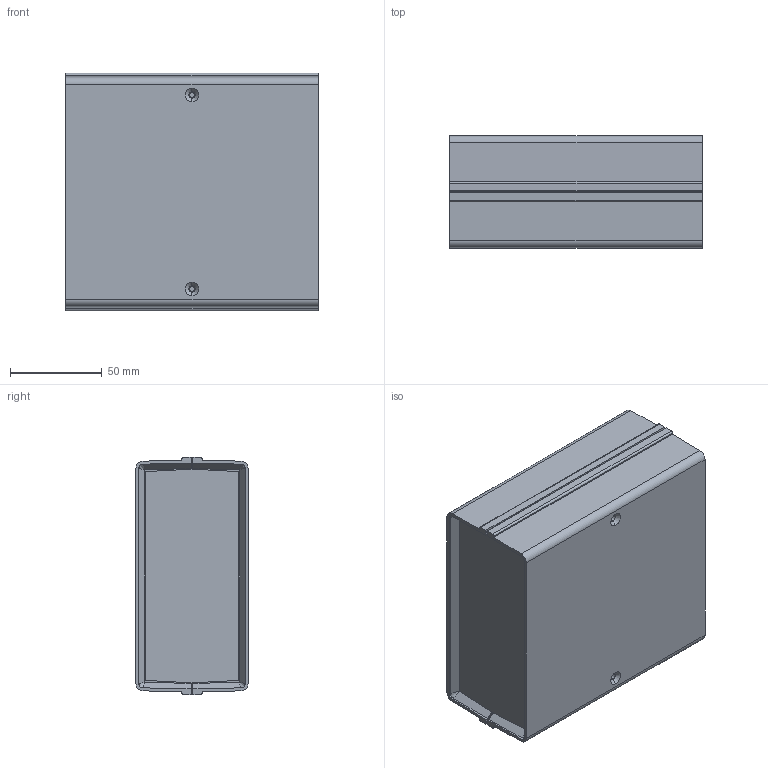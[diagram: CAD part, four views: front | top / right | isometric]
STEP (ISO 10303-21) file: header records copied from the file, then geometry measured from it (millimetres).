
FILE_DESCRIPTION (( 'STEP AP203' ), '1' );
FILE_NAME ('DT-0808.STEP', '2023-02-23T13:14:00', ( '' ), ( '' ), 'SwSTEP 2.0', 'SolidWorks 2021', '' );
FILE_SCHEMA (( 'CONFIG_CONTROL_DESIGN' ));
Length unit declared in the file: millimetre
Products named in the file (4): DT-0808-P-4; kalin-黶t; kalin-taban; DT-0808
Assembly tree (4 placements, depth 2):
  DT-0808
    kalin-taban
    kalin-黶t
    DT-0808-P-4  x2
Bounding box: 137.6 x 61 x 129.28 mm (x, y, z)
Volume: 201773.3 mm3; surface area: 142489.7 mm2
Topology: 4 solids, 4 shells, 388 faces, 1052 edges, 692 vertices
Faces by surface type: plane 236, cylinder 116, cone 28, bspline 8
Entity records: 12080 total; most frequent: CARTESIAN_POINT 2764, ORIENTED_EDGE 1968, DIRECTION 1704, EDGE_CURVE 984, LINE 680, VECTOR 680, VERTEX_POINT 652, AXIS2_PLACEMENT_3D 512
